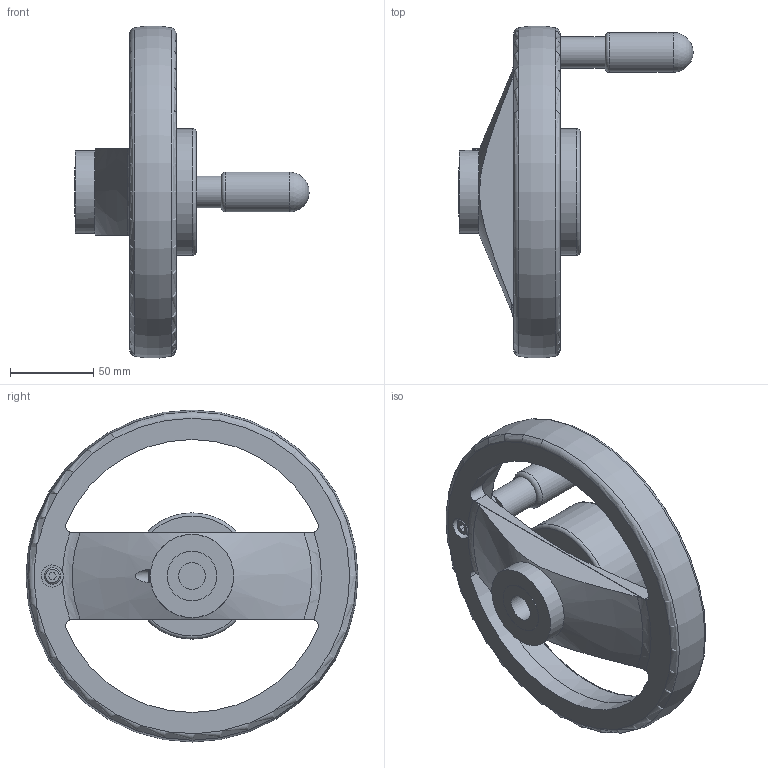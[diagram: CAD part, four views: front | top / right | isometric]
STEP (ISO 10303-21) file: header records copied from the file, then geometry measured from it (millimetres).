
FILE_DESCRIPTION( ( 'STEP AP203' ), '1' );
FILE_NAME( 'C:/Temp/Ganter_Step_05_03_2020/data/1_4/gn_522_8/gn_522_8_b/gn_522_8_b_d/Spoked handwheel GN 522.8-200-B16-D.stp', '2020-03-05T10:53:30', ( 'License CC BY-ND 4.0' ), ( 'CADENAS' ), ' ', 'PARTsolutions', ' ' );
FILE_SCHEMA( ( 'CONFIG_CONTROL_DESIGN' ) );
Length unit declared in the file: millimetre
Products named in the file (1): _Spoked handwheel GN 522.8-200-B16-D
Bounding box: 141 x 199.73 x 199.73 mm (x, y, z)
Volume: 498168.5 mm3; surface area: 102635.9 mm2
Topology: 1 solids, 1 shells, 92 faces, 220 edges, 143 vertices
Faces by surface type: plane 45, cylinder 30, torus 9, cone 7, sphere 1
Full cylindrical faces by diameter (mm): 6 x4, 10 x1, 13.333 x1, 14.25 x1, 16 x1, 19 x1, 24 x1, 30 x1, 50 x1, 67 x1, 68.8 x1, 76 x1
Entity records: 2899 total; most frequent: CARTESIAN_POINT 904, DIRECTION 400, ORIENTED_EDGE 362, EDGE_CURVE 181, AXIS2_PLACEMENT_3D 168, EDGE_LOOP 137, VERTEX_POINT 131, FACE_OUTER_BOUND 113
